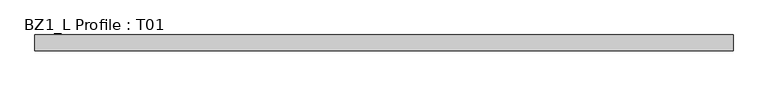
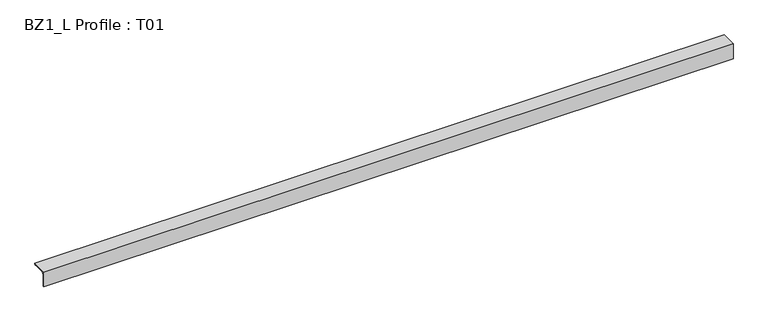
"""IFC4 building model written with IfcOpenShell, lengths in millimetres: beam geometry, BZ1_L Profile : T01."""

from ifc_helpers import new_model, si_unit, point, frame, frame_2d, origin, place, context, project, spatial, polyline, circle_curve, trimmed, segment, composite_curve, outline, extrude, source, transform, mapped, element, save


def bz1_l_profile_t01_5d592bfc(model_context):
    return source(origin(), model_context, "Body", "SweptSolid", [
        extrude(outline(composite_curve([segment(polyline([(41.5, 0.0), (7.0, 0.0)]), True, "CONTINUOUS"), segment(trimmed(circle_curve(frame_2d((7.0, -7.0)), 7.0), [point((7.0, 0.0))], [point((0.0, -7.0))], True, "CARTESIAN"), True, "CONTINUOUS"), segment(polyline([(0.0, -7.0), (0.0, -41.5)]), True, "CONTINUOUS"), segment(trimmed(circle_curve(frame_2d((-3.5, -41.5)), 3.5), [point((0.0, -41.5))], [point((-3.5, -45.0))], False, "CARTESIAN"), True, "CONTINUOUS"), segment(polyline([(-3.5, -45.0), (-5.0, -45.0), (-5.0, 5.0), (45.0, 5.0), (45.0, 3.5)]), True, "CONTINUOUS"), segment(trimmed(circle_curve(frame_2d((41.5, 3.5)), 3.5), [point((45.0, 3.5))], [point((41.5, 0.0))], False, "CARTESIAN"), True, "CONTINUOUS")], self_intersect=False)), frame((0.0, 0.0, 0.0), z_axis=(1.0, 0.0, 0.0), x_axis=(0.0, 1.0, 0.0)), (0.0, 0.0, 1.0), 2200.0),
    ])


if __name__ == "__main__":
    model = new_model("IFC4")
    model_context = context("Model", 3, world=origin())
    ifc_project = project(units=[si_unit("LENGTHUNIT", "METRE", prefix="MILLI")], contexts=[model_context])
    site = spatial("IfcSite", under=ifc_project)
    building = spatial("IfcBuilding", under=site)
    placement = place(None, origin())
    bz1_l_profile_t01_shape = bz1_l_profile_t01_5d592bfc(model_context)
    element("IfcBeam", 1, ObjectType="BZ1_L Profile : T01", at=placement, inside=building, context=model_context, shape_type="MappedRepresentation", body=[
        mapped(bz1_l_profile_t01_shape, transform((0.0, 0.0, 0.0), x_axis=(1.0, 0.0, 0.0), y_axis=(0.0, 1.0, 0.0), z_axis=(0.0, 0.0, 1.0))),
    ])
    save(model, "model.ifc")
